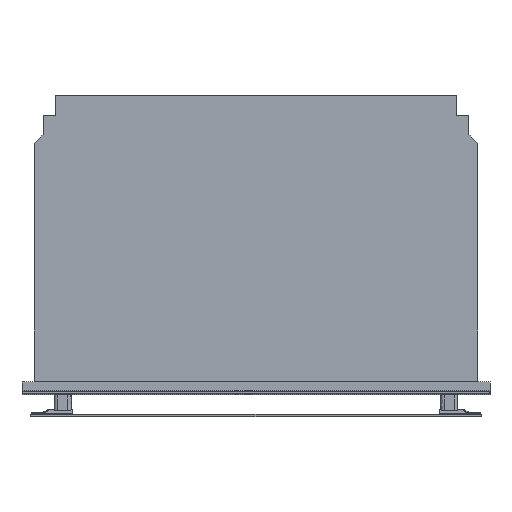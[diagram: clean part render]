
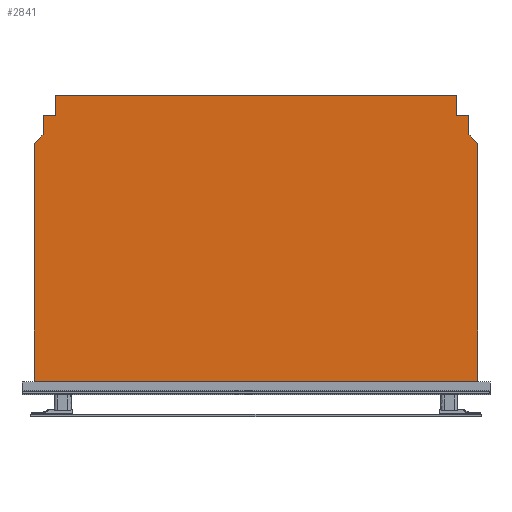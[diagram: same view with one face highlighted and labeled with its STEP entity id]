
A CAD part, top view. The second image highlights one B-rep face of the part: STEP entity #2841.
In plain terms, the highlighted planar face has unit normal (0, 0, 1).
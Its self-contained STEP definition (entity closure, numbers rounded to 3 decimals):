
#180=LINE('',#4589,#420);
#184=LINE('',#4597,#424);
#185=LINE('',#4599,#425);
#186=LINE('',#4601,#426);
#187=LINE('',#4603,#427);
#188=LINE('',#4605,#428);
#189=LINE('',#4607,#429);
#190=LINE('',#4609,#430);
#191=LINE('',#4611,#431);
#192=LINE('',#4613,#432);
#193=LINE('',#4615,#433);
#194=LINE('',#4617,#434);
#420=VECTOR('',#3318,1000.);
#424=VECTOR('',#3324,1000.);
#425=VECTOR('',#3327,1000.);
#426=VECTOR('',#3328,1000.);
#427=VECTOR('',#3329,1000.);
#428=VECTOR('',#3330,1000.);
#429=VECTOR('',#3331,1000.);
#430=VECTOR('',#3332,1000.);
#431=VECTOR('',#3333,1000.);
#432=VECTOR('',#3334,1000.);
#433=VECTOR('',#3335,1000.);
#434=VECTOR('',#3336,1000.);
#1006=ORIENTED_EDGE('',*,*,#1382,.F.);
#1007=ORIENTED_EDGE('',*,*,#1383,.T.);
#1008=ORIENTED_EDGE('',*,*,#1384,.T.);
#1009=ORIENTED_EDGE('',*,*,#1385,.T.);
#1010=ORIENTED_EDGE('',*,*,#1386,.T.);
#1011=ORIENTED_EDGE('',*,*,#1387,.F.);
#1012=ORIENTED_EDGE('',*,*,#1388,.F.);
#1013=ORIENTED_EDGE('',*,*,#1389,.F.);
#1014=ORIENTED_EDGE('',*,*,#1390,.F.);
#1015=ORIENTED_EDGE('',*,*,#1391,.F.);
#1016=ORIENTED_EDGE('',*,*,#1392,.T.);
#1017=ORIENTED_EDGE('',*,*,#1378,.T.);
#1378=EDGE_CURVE('',#1604,#1605,#180,.T.);
#1382=EDGE_CURVE('',#1606,#1605,#184,.T.);
#1383=EDGE_CURVE('',#1606,#1607,#185,.T.);
#1384=EDGE_CURVE('',#1607,#1608,#186,.T.);
#1385=EDGE_CURVE('',#1608,#1609,#187,.T.);
#1386=EDGE_CURVE('',#1609,#1610,#188,.T.);
#1387=EDGE_CURVE('',#1611,#1610,#189,.T.);
#1388=EDGE_CURVE('',#1612,#1611,#190,.T.);
#1389=EDGE_CURVE('',#1613,#1612,#191,.T.);
#1390=EDGE_CURVE('',#1614,#1613,#192,.T.);
#1391=EDGE_CURVE('',#1615,#1614,#193,.T.);
#1392=EDGE_CURVE('',#1615,#1604,#194,.T.);
#1604=VERTEX_POINT('',#4590);
#1605=VERTEX_POINT('',#4591);
#1606=VERTEX_POINT('',#4596);
#1607=VERTEX_POINT('',#4600);
#1608=VERTEX_POINT('',#4602);
#1609=VERTEX_POINT('',#4604);
#1610=VERTEX_POINT('',#4606);
#1611=VERTEX_POINT('',#4608);
#1612=VERTEX_POINT('',#4610);
#1613=VERTEX_POINT('',#4612);
#1614=VERTEX_POINT('',#4614);
#1615=VERTEX_POINT('',#4616);
#1765=EDGE_LOOP('',(#1006,#1007,#1008,#1009,#1010,#1011,#1012,#1013,#1014,
#1015,#1016,#1017));
#1895=FACE_BOUND('',#1765,.T.);
#1992=PLANE('',#2965);
#2841=ADVANCED_FACE('',(#1895),#1992,.F.);
#2965=AXIS2_PLACEMENT_3D('',#4598,#3325,#3326);
#3318=DIRECTION('',(-1.,0.,0.));
#3324=DIRECTION('',(0.,1.,0.));
#3325=DIRECTION('',(0.,0.,-1.));
#3326=DIRECTION('',(1.,0.,0.));
#3327=DIRECTION('',(-1.,0.,0.));
#3328=DIRECTION('',(0.,-1.,0.));
#3329=DIRECTION('',(-0.707,-0.707,0.));
#3330=DIRECTION('',(0.,-1.,0.));
#3331=DIRECTION('',(-1.,0.,0.));
#3332=DIRECTION('',(0.,-1.,0.));
#3333=DIRECTION('',(0.707,-0.707,0.));
#3334=DIRECTION('',(0.,-1.,0.));
#3335=DIRECTION('',(1.,0.,0.));
#3336=DIRECTION('',(0.,1.,0.));
#4589=CARTESIAN_POINT('',(384.7,287.682,228.744));
#4590=CARTESIAN_POINT('',(384.7,287.682,228.744));
#4591=CARTESIAN_POINT('',(-384.7,287.682,228.744));
#4596=CARTESIAN_POINT('',(-384.7,248.682,228.744));
#4597=CARTESIAN_POINT('',(-384.7,248.682,228.744));
#4598=CARTESIAN_POINT('',(-424.6,287.682,228.744));
#4599=CARTESIAN_POINT('',(-384.7,248.682,228.744));
#4600=CARTESIAN_POINT('',(-407.7,248.682,228.744));
#4601=CARTESIAN_POINT('',(-407.7,248.682,228.744));
#4602=CARTESIAN_POINT('',(-407.7,211.628,228.744));
#4603=CARTESIAN_POINT('',(-407.7,211.628,228.744));
#4604=CARTESIAN_POINT('',(-424.6,194.728,228.744));
#4605=CARTESIAN_POINT('',(-424.6,194.728,228.744));
#4606=CARTESIAN_POINT('',(-424.6,-259.818,228.744));
#4607=CARTESIAN_POINT('',(0.,-259.818,228.744));
#4608=CARTESIAN_POINT('',(424.6,-259.818,228.744));
#4609=CARTESIAN_POINT('',(424.6,194.728,228.744));
#4610=CARTESIAN_POINT('',(424.6,194.728,228.744));
#4611=CARTESIAN_POINT('',(407.7,211.628,228.744));
#4612=CARTESIAN_POINT('',(407.7,211.628,228.744));
#4613=CARTESIAN_POINT('',(407.7,248.682,228.744));
#4614=CARTESIAN_POINT('',(407.7,248.682,228.744));
#4615=CARTESIAN_POINT('',(384.7,248.682,228.744));
#4616=CARTESIAN_POINT('',(384.7,248.682,228.744));
#4617=CARTESIAN_POINT('',(384.7,248.682,228.744));
